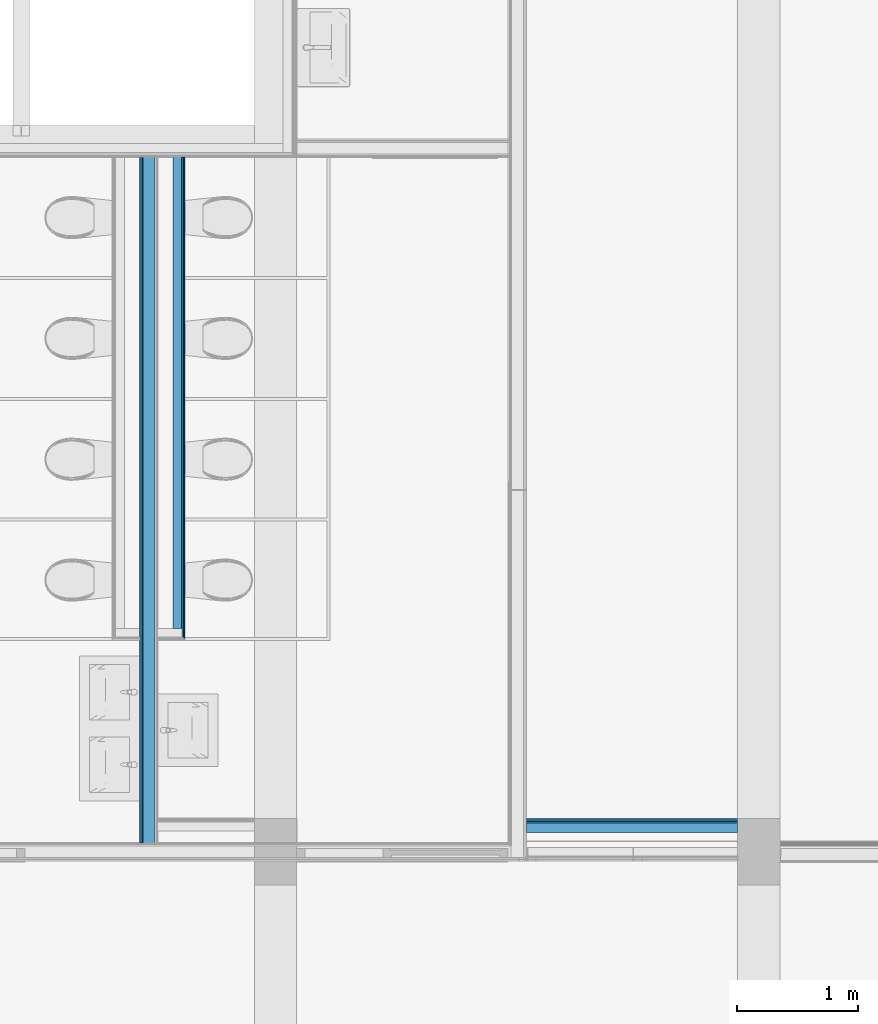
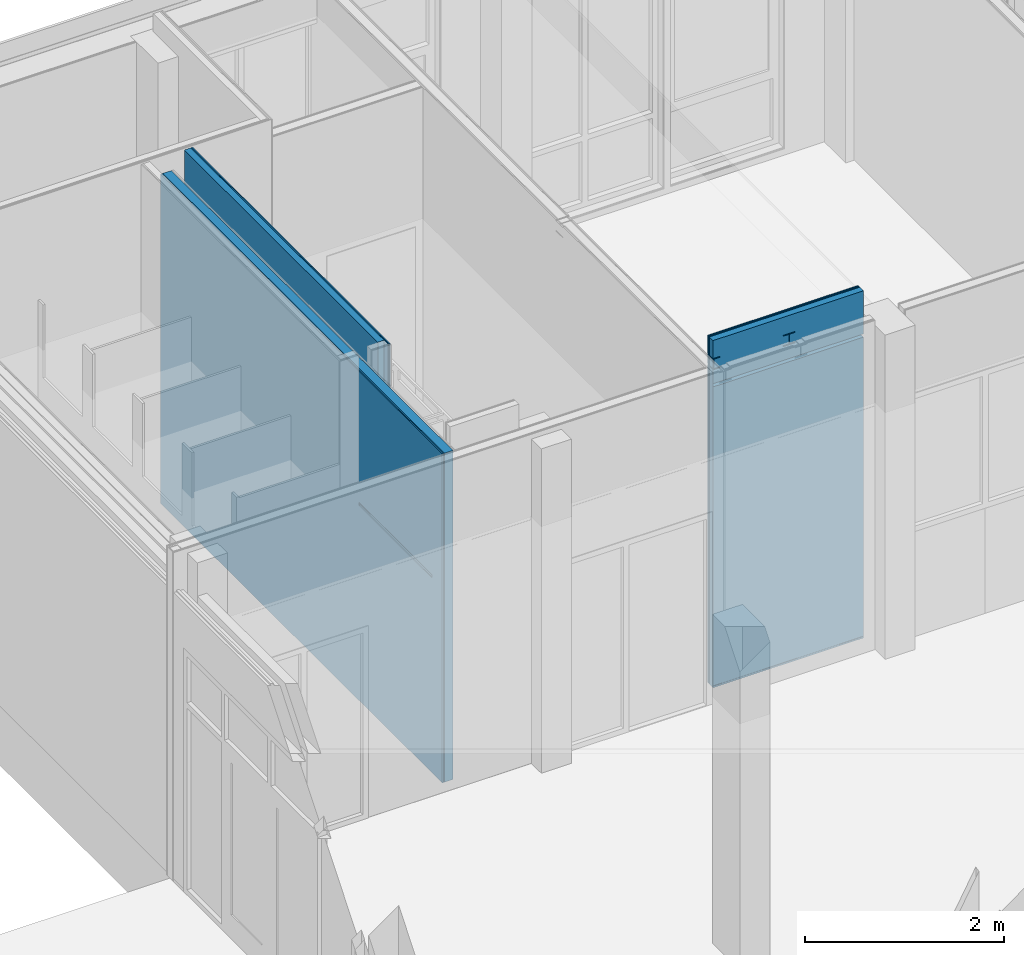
# One storey, part 22 of 54: 10 building element parts, 3 elements without a shape of their own.
"""IFC2X3 building model written with IfcOpenShell, lengths in millimetres."""

from ifc_helpers import new_model, entity, si_unit, converted_unit, derived_unit, money_unit, direction, frame, origin_with_axes, place, context, subcontext, project, spatial, faceted_brep, material, type_object, element, aggregate, save


model = new_model("IFC2X3")

# Units and contexts
model_context = context("Model", 3, precision=0.01, world=origin_with_axes(), true_north=direction((0.0, 1.0)))
body_context = subcontext(model_context, "Body", "Model", "MODEL_VIEW")
ifc_project = project(units=[si_unit("LENGTHUNIT", "METRE", prefix="MILLI"), si_unit("AREAUNIT", "SQUARE_METRE"), si_unit("VOLUMEUNIT", "CUBIC_METRE"), converted_unit("PLANEANGLEUNIT", "DEGREE", entity("IfcPlaneAngleMeasure", 0.0174532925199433), si_unit("PLANEANGLEUNIT", "RADIAN"), dimensions=[0, 0, 0, 0, 0, 0, 0]), money_unit("EUR"), converted_unit("TIMEUNIT", "Year", entity("IfcTimeMeasure", 31557600.0), si_unit("TIMEUNIT", "SECOND"), dimensions=[0, 0, 1, 0, 0, 0, 0]), si_unit("MASSUNIT", "GRAM", prefix="KILO"), si_unit("THERMODYNAMICTEMPERATUREUNIT", "DEGREE_CELSIUS"), si_unit("LUMINOUSINTENSITYUNIT", "LUMEN"), si_unit("ENERGYUNIT", "JOULE", prefix="MEGA"), derived_unit("THERMALCONDUCTANCEUNIT", [(si_unit("POWERUNIT", "WATT"), 1), (si_unit("LENGTHUNIT", "METRE"), -1), (si_unit("THERMODYNAMICTEMPERATUREUNIT", "KELVIN"), -1)]), derived_unit("SPECIFICHEATCAPACITYUNIT", [(si_unit("ENERGYUNIT", "JOULE"), 1), (si_unit("MASSUNIT", "GRAM", prefix="KILO"), -1), (si_unit("THERMODYNAMICTEMPERATUREUNIT", "KELVIN"), -1)]), derived_unit("MASSDENSITYUNIT", [(si_unit("MASSUNIT", "GRAM", prefix="KILO"), 1), (si_unit("VOLUMEUNIT", "CUBIC_METRE"), -1)])], contexts=[model_context])

# Site, building, storey
site_placement = place(None, origin_with_axes())
site = spatial("IfcSite", under=ifc_project, at=site_placement, Name="<site naam>", CompositionType="ELEMENT")
building_placement = place(site_placement, origin_with_axes())
building = spatial("IfcBuilding", under=site, at=building_placement, Name="<Naam gebouw>", CompositionType="ELEMENT")
storey_placement = place(building_placement, frame((0.0, 0.0, 8500.0), z_axis=(0.0, 0.0, 1.0), x_axis=(1.0, 0.0, 0.0)))
storey = spatial("IfcBuildingStorey", under=building, at=storey_placement, Name="02 2e verdieping", CompositionType="ELEMENT", Elevation=8500.0)

# Wall, building element parts
wall_type_1 = type_object("IfcWallType", Name="MS-01 GF 150 ECO DGS/2.100.2.A 150", PredefinedType="NOTDEFINED")
wall_1_placement = place(storey_placement, frame((14949.99338189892, 17749.99999999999, 0.0), z_axis=(0.0, 0.0, 1.0), x_axis=(0.0, -1.0, 0.0)))
wall_1 = element("IfcWall", 1, at=wall_1_placement, inside=storey, type_object=wall_type_1, Name="22_Binnenwand_MS-01")
ifc_material_1 = material(Name="gipsplaat")
building_element_part_1_placement = place(wall_1_placement, origin_with_axes())
building_element_part_1 = element("IfcBuildingElementPart", 2, at=building_element_part_1_placement, material=ifc_material_1, Name="gipsplaat", context=body_context, shape_type="Brep", body=[
    faceted_brep([(0.0, -62.50000000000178, 4050.000014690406), (0.0, -49.99999999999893, 4050.000014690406), (0.0, -49.99999999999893, 0.0), (0.0, -62.50000000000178, 0.0), (5674.999999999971, -49.99999999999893, 4050.000014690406), (5674.999999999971, -62.50000000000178, 4050.000014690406), (5674.999999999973, -49.99999999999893, 3.000000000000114), (4000.148729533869, -49.99999999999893, 3.000000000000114), (4000.148729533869, -49.99999999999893, 0.0), (4000.043348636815, -49.99999999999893, 2400.0), (5470.211383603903, -49.99999999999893, 2400.0), (5470.211383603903, -49.99999999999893, 2440.0), (4000.043348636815, -49.99999999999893, 2440.0), (4000.153994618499, -62.50000000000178, 0.0), (4000.153994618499, -62.50000000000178, 3.000000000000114), (5674.999999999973, -62.50000000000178, 3.000000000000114), (5470.211383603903, -62.50000000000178, 2440.0), (5470.211383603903, -62.50000000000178, 2400.0), (4000.043348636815, -62.50000000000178, 2400.0), (4000.043348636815, -62.50000000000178, 2440.0)], [[[0, 1, 2, 3]], [[4, 1, 0, 5]], [[1, 4, 6, 7, 8, 2], [9, 10, 11, 12]], [[2, 8, 13, 3]], [[5, 0, 3, 13, 14, 15], [16, 17, 18, 19]], [[4, 5, 15, 6]], [[14, 7, 6, 15]], [[13, 8, 7, 14]], [[17, 10, 9, 18]], [[16, 11, 10, 17]], [[19, 12, 11, 16]], [[18, 9, 12, 19]]]),
])
building_element_part_2_placement = place(wall_1_placement, origin_with_axes())
building_element_part_2 = element("IfcBuildingElementPart", 3, at=building_element_part_2_placement, material=ifc_material_1, Name="gipsplaat", context=body_context, shape_type="Brep", body=[
    faceted_brep([(0.0, -74.99999999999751, 4050.000014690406), (0.0, -62.50000000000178, 4050.000014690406), (0.0, -62.50000000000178, 0.0), (0.0, -74.99999999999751, 0.0), (5674.999999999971, -62.50000000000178, 4050.000014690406), (5674.999999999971, -74.99999999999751, 4050.000014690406), (5674.999999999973, -62.50000000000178, 3.000000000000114), (4000.153994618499, -62.50000000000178, 3.000000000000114), (4000.153994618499, -62.50000000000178, 0.0), (4000.043348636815, -62.50000000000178, 2400.0), (5470.211383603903, -62.50000000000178, 2400.0), (5470.211383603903, -62.50000000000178, 2440.0), (4000.043348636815, -62.50000000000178, 2440.0), (4000.159259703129, -75.00000000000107, 0.0), (4000.159259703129, -74.99999999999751, 3.000000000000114), (5674.999999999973, -75.00000000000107, 3.000000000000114), (5470.211383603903, -75.00001273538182, 2440.0), (5470.211383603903, -75.00001273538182, 2400.0), (4000.043348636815, -74.99999999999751, 2400.0), (4000.043348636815, -74.99999999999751, 2440.0)], [[[0, 1, 2, 3]], [[4, 1, 0, 5]], [[1, 4, 6, 7, 8, 2], [9, 10, 11, 12]], [[2, 8, 13, 3]], [[5, 0, 3, 13, 14, 15], [16, 17, 18, 19]], [[4, 5, 15, 6]], [[14, 7, 6, 15]], [[13, 8, 7, 14]], [[17, 10, 9, 18]], [[16, 11, 10, 17]], [[19, 12, 11, 16]], [[18, 9, 12, 19]]]),
])

wall_type_2 = type_object("IfcWallType", Name="MS-03 GF 100 HTT DGS V/100.2 100", PredefinedType="NOTDEFINED")
wall_2_placement = place(storey_placement, frame((15150.52416050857, 17749.99999999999, 0.0), z_axis=(0.0, 0.0, 1.0), x_axis=(-0.0001343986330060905, -0.9999999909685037, 0.0)))
wall_2 = element("IfcWall", 4, at=wall_2_placement, inside=storey, type_object=wall_type_2, Name="22_Binnenwand_MS-03")
building_element_part_3_placement = place(wall_2_placement, origin_with_axes())
building_element_part_3 = element("IfcBuildingElementPart", 5, at=building_element_part_3_placement, material=ifc_material_1, Name="gipsplaat", context=body_context, shape_type="Brep", body=[
    faceted_brep([(3899.450488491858, 99.99999999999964, 2400.0), (3899.450488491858, 99.99999999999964, 2440.0), (-0.01343986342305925, 100.0000000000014, 2440.0), (-0.01343986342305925, 100.0000000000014, 4250.0), (3987.487904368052, 99.99999999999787, 4250.0), (3987.487904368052, 99.99999999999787, 0.0), (-0.01343986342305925, 100.0000000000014, 0.0), (-0.01343986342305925, 100.0000000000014, 2400.0), (-0.01336942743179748, 99.4759173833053, 2400.0), (-0.01336942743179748, 99.4759173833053, 2440.0), (-0.01175988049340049, 87.50000000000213, 0.0), (-0.01175988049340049, 87.50000000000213, 4250.0), (3987.494849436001, 87.50000000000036, 4250.0), (3987.494849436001, 87.50000000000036, 0.0)], [[[0, 1, 2, 3, 4, 5, 6, 7]], [[8, 9, 1, 0]], [[9, 2, 1]], [[8, 7, 6, 10, 11, 3, 2, 9]], [[12, 4, 3, 11]], [[4, 12, 13, 5]], [[5, 13, 10, 6]], [[0, 7, 8]], [[13, 12, 11, 10]]]),
])
building_element_part_4_placement = place(wall_2_placement, origin_with_axes())
building_element_part_4 = element("IfcBuildingElementPart", 6, at=building_element_part_4_placement, material=ifc_material_1, Name="gipsplaat", context=body_context, shape_type="Brep", body=[
    faceted_brep([(3975.001792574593, 75.00000000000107, 4250.0), (3974.994847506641, 87.50000000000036, 4250.0), (-0.01175988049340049, 87.50000000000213, 4250.0), (-0.01007989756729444, 75.00000000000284, 4250.0), (3975.001792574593, 75.00000000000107, 0.0), (3974.994847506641, 87.50000000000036, 0.0), (-0.01175988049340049, 87.50000000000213, 0.0), (-0.01007989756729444, 75.00000000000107, 0.0)], [[[0, 1, 2, 3]], [[1, 0, 4, 5]], [[1, 5, 6, 2]], [[7, 3, 2, 6]], [[4, 0, 3, 7]], [[5, 4, 7, 6]]]),
])
ifc_material_2 = material(Name="isolatie_steenwol LSW")
building_element_part_5_placement = place(wall_2_placement, origin_with_axes())
building_element_part_5 = element("IfcBuildingElementPart", 7, at=building_element_part_5_placement, material=ifc_material_2, Name="isolatie_steenwol LSW", context=body_context, shape_type="Brep", body=[
    faceted_brep([(3900.043451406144, 0.0, 4250.0), (3900.001780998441, 74.99999999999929, 4250.0), (-0.01007989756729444, 75.00000000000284, 4250.0), (0.0, 0.0, 4250.0), (3900.043451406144, 0.0, 0.0), (3900.001780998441, 74.99999999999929, 0.0), (-0.01007989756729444, 75.00000000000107, 0.0), (0.0, 0.0, 0.0)], [[[0, 1, 2, 3]], [[1, 0, 4, 5]], [[1, 5, 6, 2]], [[7, 3, 2, 6]], [[4, 0, 3, 7]], [[5, 4, 7, 6]]]),
])
aggregate(wall_2, [building_element_part_3, building_element_part_4, building_element_part_5])

# Building element part
building_element_part_6_placement = place(wall_1_placement, origin_with_axes())
building_element_part_6 = element("IfcBuildingElementPart", 8, at=building_element_part_6_placement, material=ifc_material_2, Name="isolatie_steenwol LSW", context=body_context, shape_type="Brep", body=[
    faceted_brep([(0.0, -49.99999999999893, 4050.000014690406), (0.0, 50.00000000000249, 4050.000014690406), (0.0, 50.00000000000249, 0.0), (0.0, -49.99999999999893, 0.0), (5674.999999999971, 50.00000000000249, 4050.000014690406), (5674.999999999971, -49.99999999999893, 4050.000014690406), (5674.999999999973, 49.99999999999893, 3.000000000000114), (4000.106608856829, 50.00000000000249, 3.000000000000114), (4000.106608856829, 49.99999999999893, 0.0), (4000.043348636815, 50.00000000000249, 2400.0), (5470.211383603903, 50.00000000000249, 2400.0), (5470.211383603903, 50.00000000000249, 2440.0), (4000.043348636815, 50.00000000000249, 2440.0), (4000.148729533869, -49.99999999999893, 0.0), (4000.148729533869, -49.99999999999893, 3.000000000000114), (5674.999999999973, -49.99999999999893, 3.000000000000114), (5470.211383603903, -49.99999999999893, 2440.0), (5470.211383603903, -49.99999999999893, 2400.0), (4000.043348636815, -49.99999999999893, 2400.0), (4000.043348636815, -49.99999999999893, 2440.0)], [[[0, 1, 2, 3]], [[4, 1, 0, 5]], [[1, 4, 6, 7, 8, 2], [9, 10, 11, 12]], [[2, 8, 13, 3]], [[5, 0, 3, 13, 14, 15], [16, 17, 18, 19]], [[4, 5, 15, 6]], [[14, 7, 6, 15]], [[13, 8, 7, 14]], [[17, 10, 9, 18]], [[16, 11, 10, 17]], [[19, 12, 11, 16]], [[18, 9, 12, 19]]]),
])

aggregate(wall_1, [building_element_part_1, building_element_part_2, building_element_part_6])

# Wall, building element parts
wall_type_3 = type_object("IfcWallType", Name="MS-04 GF 138 V/100.3.A 113", PredefinedType="NOTDEFINED")
wall_3_placement = place(storey_placement, frame((18074.93840291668, 12275.00000000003, 0.0), z_axis=(0.0, 0.0, 1.0), x_axis=(1.0, 0.0, 0.0)))
wall_3 = element("IfcWall", 9, at=wall_3_placement, inside=storey, type_object=wall_type_3, Name="22_Binnenwand_MS-04")
building_element_part_7_placement = place(wall_3_placement, origin_with_axes())
building_element_part_7 = element("IfcBuildingElementPart", 10, at=building_element_part_7_placement, material=ifc_material_1, Name="gipsplaat", context=body_context, shape_type="Brep", body=[
    faceted_brep([(6.56159710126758, 0.0, 3922.000000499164), (0.0, 0.0, 3922.000000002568), (0.0, 0.0, 4037.999999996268), (6.56159710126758, 0.0, 4037.999998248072), (6.56159710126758, -12.49999999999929, 3922.000000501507), (0.0, -12.49999999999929, 3922.000000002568), (0.0, -12.49999999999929, 4037.999999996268), (6.56159710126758, -12.49999999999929, 4037.999998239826)], [[[0, 1, 2, 3]], [[1, 0, 4, 5]], [[6, 2, 1, 5]], [[3, 2, 6, 7]], [[0, 3, 7, 4]], [[7, 6, 5, 4]]]),
    faceted_brep([(13.56159710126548, 0.0, 4037.999998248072), (80.06159710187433, 0.0, 4037.999999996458), (80.06159710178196, 0.0, 4050.000000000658), (0.0, 0.0, 4050.000000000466), (0.0, 0.0, 4270.0), (1750.06159708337, 0.0, 4270.0), (1750.061484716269, 0.0, 3740.0), (0.1199877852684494, 0.0, 3740.0), (0.1199877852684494, 0.0, 3700.000000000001), (1750.061484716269, 0.0, 3700.000000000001), (1750.061691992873, 7.467153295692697e-05, 22.99999999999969), (0.1622894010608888, 0.0, 22.99999999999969), (0.1622894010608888, 0.0, 19.99999999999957), (1750.061691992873, 7.467153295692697e-05, 19.99999999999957), (1750.06159708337, 0.0, 0.0), (0.0, 0.0, 0.0), (0.0, 0.0, 3909.999999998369), (80.06159710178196, 0.0, 3909.999999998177), (80.06159710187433, 0.0, 3922.000000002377), (13.56159710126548, 0.0, 3922.000000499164), (888.5615970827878, 0.0, 4037.999997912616), (955.0615970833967, 0.0, 4037.999999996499), (955.0615970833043, 0.0, 4050.000000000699), (815.0615970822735, 0.0, 4050.000000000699), (815.0615970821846, 0.0, 4037.999999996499), (881.56159708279, 0.0, 4037.999997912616), (881.56159708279, 0.0, 3922.000000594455), (815.0615970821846, 0.0, 3922.000000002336), (815.0615970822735, 0.0, 3909.999999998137), (955.0615970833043, 0.0, 3909.999999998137), (955.0615970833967, 0.0, 3922.000000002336), (888.5615970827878, 0.0, 3922.000000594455), (13.56159710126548, -12.49999999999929, 4037.999998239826), (80.06159710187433, -12.49999999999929, 4037.999999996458), (80.06159710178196, -12.49999999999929, 4050.000000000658), (0.0, -12.49999999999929, 4050.000000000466), (0.0, -12.49999999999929, 4270.0), (1750.06159708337, -12.49999999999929, 4270.0), (1750.061484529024, -12.49999999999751, 3740.0), (0.1199877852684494, -12.49999999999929, 3740.0), (0.1199877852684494, -12.49999999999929, 3700.000000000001), (1750.061484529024, -12.49999999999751, 3700.000000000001), (1750.061691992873, -12.49999999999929, 22.99999999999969), (0.1622894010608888, -12.49999999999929, 22.99999999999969), (0.1622894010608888, -12.49999999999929, 19.99999999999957), (1750.061691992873, -12.49999999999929, 19.99999999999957), (1750.06159708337, -12.49999999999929, 0.0), (0.0, -12.49999999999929, 0.0), (0.0, -12.49999999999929, 3909.999999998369), (80.06159710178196, -12.49999999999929, 3909.999999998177), (80.06159710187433, -12.49999999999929, 3922.000000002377), (13.56159710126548, -12.49999999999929, 3922.000000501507), (888.5615970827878, -12.49999999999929, 4037.999997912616), (955.0615970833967, -12.49999999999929, 4037.999999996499), (955.0615970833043, -12.49999999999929, 4050.000000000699), (815.0615970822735, -12.49999999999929, 4050.000000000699), (815.0615970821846, -12.49999999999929, 4037.999999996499), (881.56159708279, -12.49999999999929, 4037.999997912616), (881.56159708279, -12.49999999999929, 3922.000000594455), (815.0615970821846, -12.49999999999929, 3922.000000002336), (815.0615970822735, -12.49999999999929, 3909.999999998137), (955.0615970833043, -12.49999999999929, 3909.999999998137), (955.0615970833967, -12.49999999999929, 3922.000000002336), (888.5615970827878, -12.49999999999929, 3922.000000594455)], [[[0, 1, 2, 3, 4, 5, 6, 7, 8, 9, 10, 11, 12, 13, 14, 15, 16, 17, 18, 19], [20, 21, 22, 23, 24, 25, 26, 27, 28, 29, 30, 31]], [[1, 0, 32, 33]], [[2, 1, 33, 34]], [[3, 2, 34, 35]], [[3, 35, 36, 4]], [[4, 36, 37, 5]], [[37, 38, 6, 5]], [[39, 7, 6, 38]], [[40, 8, 7, 39]], [[40, 41, 9, 8]], [[41, 42, 10, 9]], [[43, 11, 10, 42]], [[44, 12, 11, 43]], [[44, 45, 13, 12]], [[14, 13, 45, 46]], [[47, 15, 14, 46]], [[48, 16, 15, 47]], [[17, 16, 48, 49]], [[18, 17, 49, 50]], [[19, 18, 50, 51]], [[0, 19, 51, 32]], [[21, 20, 52, 53]], [[22, 21, 53, 54]], [[23, 22, 54, 55]], [[24, 23, 55, 56]], [[25, 24, 56, 57]], [[26, 25, 57, 58]], [[27, 26, 58, 59]], [[28, 27, 59, 60]], [[29, 28, 60, 61]], [[30, 29, 61, 62]], [[31, 30, 62, 63]], [[20, 31, 63, 52]], [[49, 48, 47, 46, 45, 44, 43, 42, 41, 40, 39, 38, 37, 36, 35, 34, 33, 32, 51, 50], [56, 55, 54, 53, 52, 63, 62, 61, 60, 59, 58, 57]]]),
])
building_element_part_8_placement = place(wall_3_placement, origin_with_axes())
building_element_part_8 = element("IfcBuildingElementPart", 11, at=building_element_part_8_placement, material=ifc_material_1, Name="gipsplaat", context=body_context, shape_type="Brep", body=[
    faceted_brep([(6.56159710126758, -12.49999999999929, 3922.000000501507), (0.0, -12.49999999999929, 3922.000000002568), (0.0, -12.49999999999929, 4037.999999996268), (6.56159710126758, -12.49999999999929, 4037.999998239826), (6.56159710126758, -25.00000000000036, 3922.00000050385), (0.0, -25.00000000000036, 3922.000000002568), (0.0, -25.00000000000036, 4037.999999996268), (6.56159710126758, -25.00000000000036, 4037.999998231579)], [[[0, 1, 2, 3]], [[1, 0, 4, 5]], [[6, 2, 1, 5]], [[3, 2, 6, 7]], [[0, 3, 7, 4]], [[7, 6, 5, 4]]]),
    faceted_brep([(13.56159710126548, -12.49999999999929, 4037.999998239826), (80.06159710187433, -12.49999999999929, 4037.999999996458), (80.06159710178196, -12.49999999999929, 4050.000000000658), (0.0, -12.49999999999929, 4050.000000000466), (0.0, -12.49999999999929, 4270.0), (1750.06159708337, -12.49999999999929, 4270.0), (1750.061484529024, -12.49999999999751, 3740.0), (0.1199877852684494, -12.49999999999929, 3740.0), (0.1199877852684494, -12.49999999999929, 3700.000000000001), (1750.061484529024, -12.49999999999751, 3700.000000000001), (1750.061691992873, -12.49999999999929, 22.99999999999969), (0.1622894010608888, -12.49999999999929, 22.99999999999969), (0.1622894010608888, -12.49999999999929, 19.99999999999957), (1750.061691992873, -12.49999999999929, 19.99999999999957), (1750.06159708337, -12.49999999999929, 0.0), (0.0, -12.49999999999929, 0.0), (0.0, -12.49999999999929, 3909.999999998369), (80.06159710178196, -12.49999999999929, 3909.999999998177), (80.06159710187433, -12.49999999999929, 3922.000000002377), (13.56159710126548, -12.49999999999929, 3922.000000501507), (888.5615970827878, -12.49999999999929, 4037.999997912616), (955.0615970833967, -12.49999999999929, 4037.999999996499), (955.0615970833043, -12.49999999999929, 4050.000000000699), (815.0615970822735, -12.49999999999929, 4050.000000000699), (815.0615970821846, -12.49999999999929, 4037.999999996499), (881.56159708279, -12.49999999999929, 4037.999997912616), (881.56159708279, -12.49999999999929, 3922.000000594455), (815.0615970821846, -12.49999999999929, 3922.000000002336), (815.0615970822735, -12.49999999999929, 3909.999999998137), (955.0615970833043, -12.49999999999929, 3909.999999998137), (955.0615970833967, -12.49999999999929, 3922.000000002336), (888.5615970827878, -12.49999999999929, 3922.000000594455), (13.56159710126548, -25.00000000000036, 4037.999998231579), (80.06159710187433, -25.00000000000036, 4037.99999999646), (80.06159710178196, -25.00000000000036, 4050.00000000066), (0.0, -25.00000000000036, 4050.000000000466), (0.0, -25.00000000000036, 4270.0), (1750.06159708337, -25.00000000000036, 4270.0), (1750.061484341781, -24.99999999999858, 3740.0), (0.1199877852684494, -25.00000000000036, 3740.0), (0.1199877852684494, -25.00000000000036, 3700.000000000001), (1750.061484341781, -24.99999999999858, 3700.000000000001), (1750.061691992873, -25.00000000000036, 22.99999999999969), (0.1622894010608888, -25.00000000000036, 22.99999999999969), (0.1622894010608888, -25.00000000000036, 19.99999999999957), (1750.061691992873, -25.00000000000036, 19.99999999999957), (1750.06159708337, -25.00000000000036, 0.0), (0.0, -25.00000000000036, 0.0), (0.0, -25.00000000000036, 3909.999999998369), (80.06159710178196, -25.00000000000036, 3909.999999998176), (80.06159710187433, -25.00000000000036, 3922.000000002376), (13.56159710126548, -25.00000000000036, 3922.00000050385), (888.5615970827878, -25.00000000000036, 4037.999997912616), (955.0615970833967, -25.00000000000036, 4037.999999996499), (955.0615970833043, -25.00000000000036, 4050.000000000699), (815.0615970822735, -25.00000000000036, 4050.000000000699), (815.0615970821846, -25.00000000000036, 4037.999999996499), (881.56159708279, -25.00000000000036, 4037.999997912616), (881.56159708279, -25.00000000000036, 3922.000000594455), (815.0615970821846, -25.00000000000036, 3922.000000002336), (815.0615970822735, -25.00000000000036, 3909.999999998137), (955.0615970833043, -25.00000000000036, 3909.999999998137), (955.0615970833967, -25.00000000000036, 3922.000000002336), (888.5615970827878, -25.00000000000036, 3922.000000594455)], [[[0, 1, 2, 3, 4, 5, 6, 7, 8, 9, 10, 11, 12, 13, 14, 15, 16, 17, 18, 19], [20, 21, 22, 23, 24, 25, 26, 27, 28, 29, 30, 31]], [[1, 0, 32, 33]], [[2, 1, 33, 34]], [[3, 2, 34, 35]], [[3, 35, 36, 4]], [[4, 36, 37, 5]], [[37, 38, 6, 5]], [[39, 7, 6, 38]], [[40, 8, 7, 39]], [[40, 41, 9, 8]], [[41, 42, 10, 9]], [[43, 11, 10, 42]], [[44, 12, 11, 43]], [[44, 45, 13, 12]], [[14, 13, 45, 46]], [[47, 15, 14, 46]], [[48, 16, 15, 47]], [[17, 16, 48, 49]], [[18, 17, 49, 50]], [[19, 18, 50, 51]], [[0, 19, 51, 32]], [[21, 20, 52, 53]], [[22, 21, 53, 54]], [[23, 22, 54, 55]], [[24, 23, 55, 56]], [[25, 24, 56, 57]], [[26, 25, 57, 58]], [[27, 26, 58, 59]], [[28, 27, 59, 60]], [[29, 28, 60, 61]], [[30, 29, 61, 62]], [[31, 30, 62, 63]], [[20, 31, 63, 52]], [[49, 48, 47, 46, 45, 44, 43, 42, 41, 40, 39, 38, 37, 36, 35, 34, 33, 32, 51, 50], [56, 55, 54, 53, 52, 63, 62, 61, 60, 59, 58, 57]]]),
])
building_element_part_9_placement = place(wall_3_placement, origin_with_axes())
building_element_part_9 = element("IfcBuildingElementPart", 12, at=building_element_part_9_placement, material=ifc_material_1, Name="gipsplaat", context=body_context, shape_type="Brep", body=[
    faceted_brep([(6.56159710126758, -25.00000000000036, 3922.00000050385), (0.0, -25.00000000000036, 3922.000000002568), (0.0, -25.00000000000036, 4037.999999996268), (6.56159710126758, -25.00000000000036, 4037.999998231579), (6.56159710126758, -37.49999999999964, 3922.000000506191), (0.0, -37.49999999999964, 3922.000000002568), (0.0, -37.49999999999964, 4037.999999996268), (6.56159710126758, -37.49999999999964, 4037.999998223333)], [[[0, 1, 2, 3]], [[1, 0, 4, 5]], [[6, 2, 1, 5]], [[3, 2, 6, 7]], [[0, 3, 7, 4]], [[7, 6, 5, 4]]]),
    faceted_brep([(13.56159710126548, -25.00000000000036, 4037.999998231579), (80.06159710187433, -25.00000000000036, 4037.99999999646), (80.06159710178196, -25.00000000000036, 4050.00000000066), (0.0, -25.00000000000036, 4050.000000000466), (0.0, -25.00000000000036, 4270.0), (1750.06159708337, -25.00000000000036, 4270.0), (1750.061484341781, -24.99999999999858, 3740.0), (0.1199877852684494, -25.00000000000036, 3740.0), (0.1199877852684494, -25.00000000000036, 3700.000000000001), (1750.061484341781, -24.99999999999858, 3700.000000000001), (1750.061691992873, -25.00000000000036, 22.99999999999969), (0.1622894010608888, -25.00000000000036, 22.99999999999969), (0.1622894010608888, -25.00000000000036, 19.99999999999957), (1750.061691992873, -25.00000000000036, 19.99999999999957), (1750.06159708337, -25.00000000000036, 0.0), (0.0, -25.00000000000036, 0.0), (0.0, -25.00000000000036, 3909.999999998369), (80.06159710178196, -25.00000000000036, 3909.999999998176), (80.06159710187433, -25.00000000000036, 3922.000000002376), (13.56159710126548, -25.00000000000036, 3922.00000050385), (888.5615970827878, -25.00000000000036, 4037.999997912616), (955.0615970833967, -25.00000000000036, 4037.999999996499), (955.0615970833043, -25.00000000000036, 4050.000000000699), (815.0615970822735, -25.00000000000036, 4050.000000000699), (815.0615970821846, -25.00000000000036, 4037.999999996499), (881.56159708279, -25.00000000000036, 4037.999997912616), (881.56159708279, -25.00000000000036, 3922.000000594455), (815.0615970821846, -25.00000000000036, 3922.000000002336), (815.0615970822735, -25.00000000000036, 3909.999999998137), (955.0615970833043, -25.00000000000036, 3909.999999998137), (955.0615970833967, -25.00000000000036, 3922.000000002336), (888.5615970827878, -25.00000000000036, 3922.000000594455), (13.56159710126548, -37.49999999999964, 4037.999998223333), (80.06159710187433, -37.49999999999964, 4037.99999999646), (80.06159710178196, -37.49999999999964, 4050.00000000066), (0.0, -37.49999999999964, 4050.000000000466), (0.0, -37.49999999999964, 4270.0), (1750.06159708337, -37.49999999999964, 4270.0), (1750.061484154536, -37.49999999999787, 3740.0), (0.1199877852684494, -37.49999999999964, 3740.0), (0.1199877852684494, -37.49999999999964, 3700.000000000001), (1750.061484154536, -37.49999999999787, 3700.000000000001), (1750.061691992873, -37.49999999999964, 22.99999999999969), (0.1622894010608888, -37.49999999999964, 22.99999999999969), (0.1622894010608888, -37.49999999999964, 19.99999999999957), (1750.061691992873, -37.49999999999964, 19.99999999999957), (1750.06159708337, -37.49999999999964, 0.0), (0.0, -37.49999999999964, 0.0), (0.0, -37.49999999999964, 3909.999999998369), (80.06159710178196, -37.49999999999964, 3909.999999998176), (80.06159710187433, -37.49999999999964, 3922.000000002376), (13.56159710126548, -37.49999999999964, 3922.000000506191), (888.5615970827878, -37.49999999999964, 4037.999997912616), (955.0615970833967, -37.49999999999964, 4037.999999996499), (955.0615970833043, -37.49999999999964, 4050.000000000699), (815.0615970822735, -37.49999999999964, 4050.000000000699), (815.0615970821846, -37.49999999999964, 4037.999999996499), (881.56159708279, -37.49999999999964, 4037.999997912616), (881.56159708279, -37.49999999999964, 3922.000000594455), (815.0615970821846, -37.49999999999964, 3922.000000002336), (815.0615970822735, -37.49999999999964, 3909.999999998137), (955.0615970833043, -37.49999999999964, 3909.999999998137), (955.0615970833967, -37.49999999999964, 3922.000000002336), (888.5615970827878, -37.49999999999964, 3922.000000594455)], [[[0, 1, 2, 3, 4, 5, 6, 7, 8, 9, 10, 11, 12, 13, 14, 15, 16, 17, 18, 19], [20, 21, 22, 23, 24, 25, 26, 27, 28, 29, 30, 31]], [[1, 0, 32, 33]], [[2, 1, 33, 34]], [[3, 2, 34, 35]], [[3, 35, 36, 4]], [[4, 36, 37, 5]], [[37, 38, 6, 5]], [[39, 7, 6, 38]], [[40, 8, 7, 39]], [[40, 41, 9, 8]], [[41, 42, 10, 9]], [[43, 11, 10, 42]], [[44, 12, 11, 43]], [[44, 45, 13, 12]], [[14, 13, 45, 46]], [[47, 15, 14, 46]], [[48, 16, 15, 47]], [[17, 16, 48, 49]], [[18, 17, 49, 50]], [[19, 18, 50, 51]], [[0, 19, 51, 32]], [[21, 20, 52, 53]], [[22, 21, 53, 54]], [[23, 22, 54, 55]], [[24, 23, 55, 56]], [[25, 24, 56, 57]], [[26, 25, 57, 58]], [[27, 26, 58, 59]], [[28, 27, 59, 60]], [[29, 28, 60, 61]], [[30, 29, 61, 62]], [[31, 30, 62, 63]], [[20, 31, 63, 52]], [[49, 48, 47, 46, 45, 44, 43, 42, 41, 40, 39, 38, 37, 36, 35, 34, 33, 32, 51, 50], [56, 55, 54, 53, 52, 63, 62, 61, 60, 59, 58, 57]]]),
])
building_element_part_10_placement = place(wall_3_placement, origin_with_axes())
building_element_part_10 = element("IfcBuildingElementPart", 13, at=building_element_part_10_placement, material=ifc_material_2, Name="isolatie_steenwol LSW", context=body_context, shape_type="Brep", body=[
    faceted_brep([(6.56159710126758, -37.49999999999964, 3922.000000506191), (0.0, -37.49999999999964, 3922.000000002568), (0.0, -37.49999999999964, 4037.999999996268), (6.56159710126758, -37.49999999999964, 4037.999998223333), (6.56159710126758, -112.5000000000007, 3922.000000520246), (0.0, -112.4999999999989, 3922.000000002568), (0.0, -112.4999999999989, 4037.999999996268), (6.56159710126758, -112.5000000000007, 4037.999998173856)], [[[0, 1, 2, 3]], [[1, 0, 4, 5]], [[6, 2, 1, 5]], [[3, 2, 6, 7]], [[0, 3, 7, 4]], [[7, 6, 5, 4]]]),
    faceted_brep([(13.56159710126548, -37.49999999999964, 4037.999998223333), (80.06159710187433, -37.49999999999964, 4037.99999999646), (80.06159710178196, -37.49999999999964, 4050.00000000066), (0.0, -37.49999999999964, 4050.000000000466), (0.0, -37.49999999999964, 4270.0), (1750.06159708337, -37.49999999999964, 4270.0), (1750.061484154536, -37.49999999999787, 3740.0), (0.1199877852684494, -37.49999999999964, 3740.0), (0.1199877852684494, -37.49999999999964, 3700.000000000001), (1750.061484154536, -37.49999999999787, 3700.000000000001), (1750.061691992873, -37.49999999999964, 22.99999999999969), (0.1622894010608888, -37.49999999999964, 22.99999999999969), (0.1622894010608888, -37.49999999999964, 19.99999999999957), (1750.061691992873, -37.49999999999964, 19.99999999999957), (1750.06159708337, -37.49999999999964, 0.0), (0.0, -37.49999999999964, 0.0), (0.0, -37.49999999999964, 3909.999999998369), (80.06159710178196, -37.49999999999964, 3909.999999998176), (80.06159710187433, -37.49999999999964, 3922.000000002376), (13.56159710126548, -37.49999999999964, 3922.000000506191), (888.5615970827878, -37.49999999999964, 4037.999997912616), (955.0615970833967, -37.49999999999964, 4037.999999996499), (955.0615970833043, -37.49999999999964, 4050.000000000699), (815.0615970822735, -37.49999999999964, 4050.000000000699), (815.0615970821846, -37.49999999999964, 4037.999999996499), (881.56159708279, -37.49999999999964, 4037.999997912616), (881.56159708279, -37.49999999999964, 3922.000000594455), (815.0615970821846, -37.49999999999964, 3922.000000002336), (815.0615970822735, -37.49999999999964, 3909.999999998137), (955.0615970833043, -37.49999999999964, 3909.999999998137), (955.0615970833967, -37.49999999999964, 3922.000000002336), (888.5615970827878, -37.49999999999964, 3922.000000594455), (13.56159710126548, -112.5000000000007, 4037.999998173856), (80.06159710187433, -112.5000000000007, 4037.999999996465), (80.06159710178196, -112.5000000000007, 4050.000000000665), (0.0, -112.4999999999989, 4050.000000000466), (0.0, -112.4999999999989, 4270.0), (1750.06159708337, -112.4999999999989, 4270.0), (1750.061483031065, -112.4999999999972, 3740.0), (0.1199877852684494, -112.5000000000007, 3740.0), (0.1199877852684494, -112.5000000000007, 3700.000000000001), (1750.061483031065, -112.4999999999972, 3700.000000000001), (1750.061691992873, -112.5000000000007, 22.99999999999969), (0.1622894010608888, -112.5000000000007, 22.99999999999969), (0.1622894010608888, -112.5000000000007, 19.99999999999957), (1750.061691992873, -112.5000000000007, 19.99999999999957), (1750.06159708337, -112.5000000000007, 0.0), (0.0, -112.5000000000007, 0.0), (0.0, -112.4999999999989, 3909.999999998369), (80.06159710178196, -112.5000000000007, 3909.999999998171), (80.06159710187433, -112.5000000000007, 3922.00000000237), (13.56159710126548, -112.5000000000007, 3922.000000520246), (888.5615970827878, -112.5000000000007, 4037.999997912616), (955.0615970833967, -112.5000000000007, 4037.999999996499), (955.0615970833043, -112.5000000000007, 4050.000000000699), (815.0615970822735, -112.5000000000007, 4050.000000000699), (815.0615970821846, -112.5000000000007, 4037.999999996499), (881.56159708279, -112.5000000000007, 4037.999997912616), (881.56159708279, -112.5000000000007, 3922.000000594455), (815.0615970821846, -112.5000000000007, 3922.000000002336), (815.0615970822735, -112.5000000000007, 3909.999999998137), (955.0615970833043, -112.5000000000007, 3909.999999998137), (955.0615970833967, -112.5000000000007, 3922.000000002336), (888.5615970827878, -112.5000000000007, 3922.000000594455)], [[[0, 1, 2, 3, 4, 5, 6, 7, 8, 9, 10, 11, 12, 13, 14, 15, 16, 17, 18, 19], [20, 21, 22, 23, 24, 25, 26, 27, 28, 29, 30, 31]], [[1, 0, 32, 33]], [[2, 1, 33, 34]], [[3, 2, 34, 35]], [[3, 35, 36, 4]], [[4, 36, 37, 5]], [[37, 38, 6, 5]], [[39, 7, 6, 38]], [[40, 8, 7, 39]], [[40, 41, 9, 8]], [[41, 42, 10, 9]], [[43, 11, 10, 42]], [[44, 12, 11, 43]], [[44, 45, 13, 12]], [[14, 13, 45, 46]], [[47, 15, 14, 46]], [[48, 16, 15, 47]], [[17, 16, 48, 49]], [[18, 17, 49, 50]], [[19, 18, 50, 51]], [[0, 19, 51, 32]], [[21, 20, 52, 53]], [[22, 21, 53, 54]], [[23, 22, 54, 55]], [[24, 23, 55, 56]], [[25, 24, 56, 57]], [[26, 25, 57, 58]], [[27, 26, 58, 59]], [[28, 27, 59, 60]], [[29, 28, 60, 61]], [[30, 29, 61, 62]], [[31, 30, 62, 63]], [[20, 31, 63, 52]], [[49, 48, 47, 46, 45, 44, 43, 42, 41, 40, 39, 38, 37, 36, 35, 34, 33, 32, 51, 50], [56, 55, 54, 53, 52, 63, 62, 61, 60, 59, 58, 57]]]),
])
aggregate(wall_3, [building_element_part_7, building_element_part_8, building_element_part_9, building_element_part_10])

save(model, "model.ifc")
